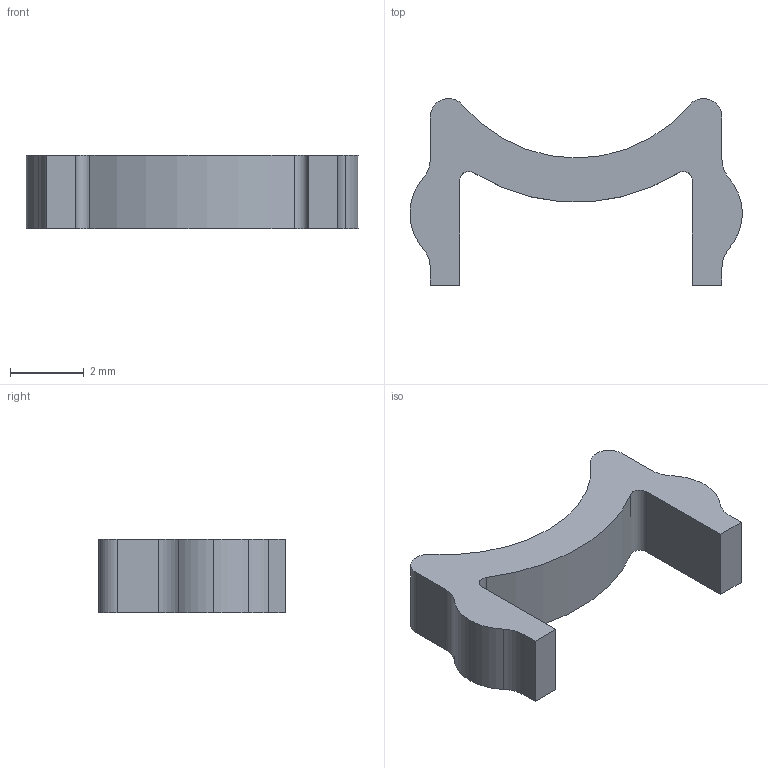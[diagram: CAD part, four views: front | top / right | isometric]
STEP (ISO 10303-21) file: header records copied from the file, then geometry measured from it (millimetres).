
FILE_DESCRIPTION (( 'STEP AP203' ), '1' );
FILE_NAME ('DBP_UPPER_ROLLER_GUIDE_hubLocks_r1.STEP', '2018-11-08T15:03:08', ( '' ), ( '' ), 'SwSTEP 2.0', 'SolidWorks 2015', '' );
FILE_SCHEMA (( 'CONFIG_CONTROL_DESIGN' ));
Length unit declared in the file: inch
Products named in the file (1): DBP_UPPER_ROLLER_GUIDE_hubLocks_r1
Bounding box: 9 x 5.06 x 2 mm (x, y, z)
Volume: 36.4 mm3; surface area: 103 mm2
Topology: 1 solids, 1 shells, 23 faces, 63 edges, 42 vertices
Faces by surface type: cylinder 13, plane 10
Entity records: 822 total; most frequent: DIRECTION 137, CARTESIAN_POINT 129, ORIENTED_EDGE 126, EDGE_CURVE 63, AXIS2_PLACEMENT_3D 50, VERTEX_POINT 42, VECTOR 37, LINE 37
